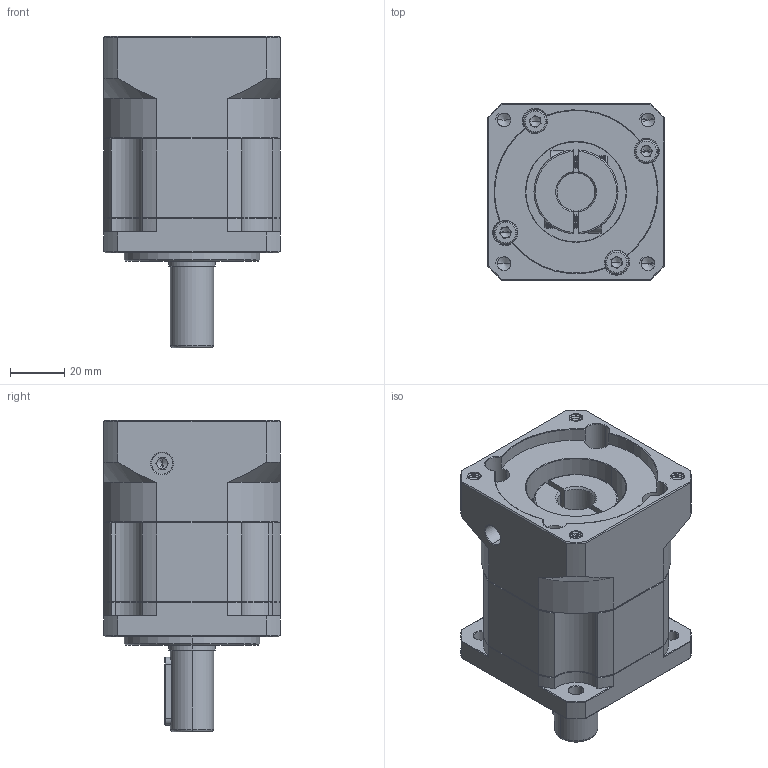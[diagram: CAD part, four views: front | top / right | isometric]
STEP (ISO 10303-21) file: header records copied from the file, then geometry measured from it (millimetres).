
FILE_DESCRIPTION (( 'STEP AP214' ), '1' );
FILE_NAME ('ZB060-D16-L1-P2-14-60-75-M6.step', '2023-08-16T07:05:00', ( '' ), ( '' ), 'SwSTEP 2.0', 'SolidWorks 2016', '' );
FILE_SCHEMA (( 'AUTOMOTIVE_DESIGN' ));
Length unit declared in the file: millimetre
Products named in the file (1): ZB060-D16-L1-P2-14-60-75-M6
Bounding box: 65 x 65 x 115 mm (x, y, z)
Volume: 265633.6 mm3; surface area: 55142.9 mm2
Topology: 6 solids, 6 shells, 2168 faces, 5843 edges, 3759 vertices
Faces by surface type: plane 1059, bspline 397, cylinder 392, cone 286, torus 34
Entity records: 117614 total; most frequent: CARTESIAN_POINT 42435, ORIENTED_EDGE 11626, DIRECTION 9186, EDGE_CURVE 5813, VERTEX_POINT 3759, LINE 3670, VECTOR 3670, AXIS2_PLACEMENT_3D 2758
